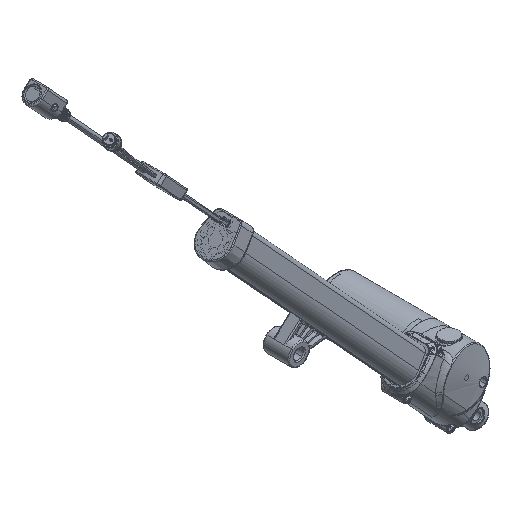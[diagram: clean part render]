
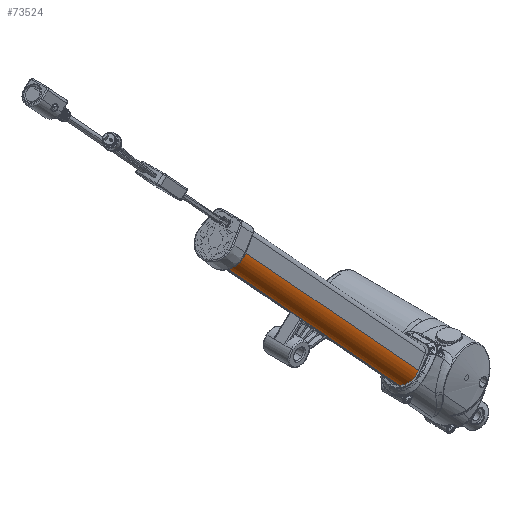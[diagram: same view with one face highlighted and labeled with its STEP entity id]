
A CAD part, isometric view. The second image highlights one B-rep face of the part: STEP entity #73524.
In plain terms, the highlighted cylindrical face has radius 15.15 mm (diameter 30.3 mm), a partial arc.
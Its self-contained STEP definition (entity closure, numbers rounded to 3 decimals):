
#64828=CARTESIAN_POINT('',(-232.704,-71.8,226.465));
#64829=DIRECTION('',(0.676,0.,-0.737));
#64830=DIRECTION('',(0.153,-0.978,0.141));
#64831=AXIS2_PLACEMENT_3D('',#64828,#64829,#64830);
#64833=CARTESIAN_POINT('',(-232.704,-71.8,226.465));
#64834=DIRECTION('',(0.676,0.,-0.737));
#64835=DIRECTION('',(0.,-1.,0.));
#64836=AXIS2_PLACEMENT_3D('',#64833,#64834,#64835);
#64967=DIRECTION('',(0.676,0.,-0.737));
#64968=VECTOR('',#64967,300.);
#64969=CARTESIAN_POINT('',(-242.607,-78.779,
217.37));
#64970=LINE('',#64969,#64968);
#65132=CARTESIAN_POINT('',(-29.786,-71.8,5.503));
#65133=DIRECTION('',(-0.676,0.,0.737));
#65134=DIRECTION('',(-0.654,-0.461,-0.6));
#65135=AXIS2_PLACEMENT_3D('',#65132,#65133,#65134);
#65137=CARTESIAN_POINT('',(-29.786,-71.8,5.503));
#65138=DIRECTION('',(-0.676,0.,0.737));
#65139=DIRECTION('',(0.,-1.,0.));
#65140=AXIS2_PLACEMENT_3D('',#65137,#65138,#65139);
#67139=CARTESIAN_POINT('',(-36.279,-71.8,12.574));
#67140=DIRECTION('',(0.676,0.,-0.737));
#67141=DIRECTION('',(0.153,-0.978,0.141));
#67142=AXIS2_PLACEMENT_3D('',#67139,#67140,#67141);
#67144=CARTESIAN_POINT('',(-36.279,-71.8,12.574));
#67145=DIRECTION('',(0.676,0.,-0.737));
#67146=DIRECTION('',(0.,-1.,0.));
#67147=AXIS2_PLACEMENT_3D('',#67144,#67145,#67146);
#67161=DIRECTION('',(0.676,0.,-0.737));
#67162=VECTOR('',#67161,284.4);
#67163=CARTESIAN_POINT('',(-230.384,-86.619,
228.596));
#67164=LINE('',#67163,#67162);
#67165=DIRECTION('',(0.676,0.,-0.737));
#67166=VECTOR('',#67165,6.);
#67167=CARTESIAN_POINT('',(-45.879,-84.95,
11.904));
#67168=LINE('',#67167,#67166);
#67169=DIRECTION('',(0.676,0.,-0.737));
#67170=VECTOR('',#67169,9.6);
#67171=CARTESIAN_POINT('',(-33.959,-86.619,
14.704));
#67172=LINE('',#67171,#67170);
#67173=CARTESIAN_POINT('',(-40.338,-71.8,16.993));
#67174=DIRECTION('',(-0.676,0.,0.737));
#67175=DIRECTION('',(-0.366,-0.868,-0.336));
#67176=AXIS2_PLACEMENT_3D('',#67173,#67174,#67175);
#67178=CARTESIAN_POINT('',(-40.338,-71.8,16.993));
#67179=DIRECTION('',(-0.676,0.,0.737));
#67180=DIRECTION('',(0.,-1.,0.));
#67181=AXIS2_PLACEMENT_3D('',#67178,#67179,#67180);
#68156=CARTESIAN_POINT('',(-230.384,-86.619,
228.596));
#68157=VERTEX_POINT('',#68156);
#68158=CARTESIAN_POINT('',(-232.704,-86.95,226.465));
#68159=VERTEX_POINT('',#68158);
#68160=CARTESIAN_POINT('',(-242.608,-78.777,
217.369));
#68161=VERTEX_POINT('',#68160);
#68230=CARTESIAN_POINT('',(-39.69,-78.78,
-3.592));
#68231=VERTEX_POINT('',#68230);
#68297=CARTESIAN_POINT('',(-29.786,-86.95,5.503));
#68298=VERTEX_POINT('',#68297);
#68299=CARTESIAN_POINT('',(-27.466,-86.619,
7.633));
#68300=VERTEX_POINT('',#68299);
#68733=CARTESIAN_POINT('',(-33.959,-86.619,
14.704));
#68735=VERTEX_POINT('',#68733);
#68738=CARTESIAN_POINT('',(-38.018,-86.619,
19.123));
#68739=VERTEX_POINT('',#68738);
#68740=CARTESIAN_POINT('',(-41.821,-84.95,
7.485));
#68741=VERTEX_POINT('',#68740);
#68742=CARTESIAN_POINT('',(-36.279,-86.95,12.574));
#68743=VERTEX_POINT('',#68742);
#68744=CARTESIAN_POINT('',(-45.879,-84.95,
11.904));
#68745=VERTEX_POINT('',#68744);
#68746=CARTESIAN_POINT('',(-40.338,-86.95,16.993));
#68747=VERTEX_POINT('',#68746);
#73503=CARTESIAN_POINT('',(-236.762,-71.8,230.884));
#73504=DIRECTION('',(0.676,0.,-0.737));
#73505=DIRECTION('',(0.,-1.,0.));
#73506=AXIS2_PLACEMENT_3D('',#73503,#73504,#73505);
#73507=CYLINDRICAL_SURFACE('',#73506,15.15);
#73508=ORIENTED_EDGE('',*,*,#70629,.F.);
#73509=ORIENTED_EDGE('',*,*,#70459,.F.);
#73510=ORIENTED_EDGE('',*,*,#70457,.F.);
#73511=ORIENTED_EDGE('',*,*,#73464,.T.);
#73513=ORIENTED_EDGE('',*,*,#73512,.F.);
#73515=ORIENTED_EDGE('',*,*,#73514,.F.);
#73516=ORIENTED_EDGE('',*,*,#73495,.T.);
#73517=ORIENTED_EDGE('',*,*,#73484,.F.);
#73518=ORIENTED_EDGE('',*,*,#73482,.F.);
#73519=ORIENTED_EDGE('',*,*,#73469,.T.);
#73520=ORIENTED_EDGE('',*,*,#70724,.F.);
#73521=ORIENTED_EDGE('',*,*,#70722,.F.);
#73522=EDGE_LOOP('',(#73508,#73509,#73510,#73511,#73513,#73515,#73516,#73517,
#73518,#73519,#73520,#73521));
#73523=FACE_OUTER_BOUND('',#73522,.F.);
#73524=ADVANCED_FACE('',(#73523),#73507,.T.);
#64832=CIRCLE('',#64831,15.15);
#64837=CIRCLE('',#64836,15.15);
#65136=CIRCLE('',#65135,15.15);
#65141=CIRCLE('',#65140,15.15);
#67143=CIRCLE('',#67142,15.15);
#67148=CIRCLE('',#67147,15.15);
#67177=CIRCLE('',#67176,15.15);
#67182=CIRCLE('',#67181,15.15);
#70457=EDGE_CURVE('',#68157,#68159,#64832,.T.);
#70459=EDGE_CURVE('',#68159,#68161,#64837,.T.);
#70629=EDGE_CURVE('',#68161,#68231,#64970,.T.);
#70722=EDGE_CURVE('',#68231,#68298,#65136,.T.);
#70724=EDGE_CURVE('',#68298,#68300,#65141,.T.);
#73464=EDGE_CURVE('',#68157,#68739,#67164,.T.);
#73469=EDGE_CURVE('',#68735,#68300,#67172,.T.);
#73482=EDGE_CURVE('',#68735,#68743,#67143,.T.);
#73484=EDGE_CURVE('',#68743,#68741,#67148,.T.);
#73495=EDGE_CURVE('',#68745,#68741,#67168,.T.);
#73512=EDGE_CURVE('',#68747,#68739,#67182,.T.);
#73514=EDGE_CURVE('',#68745,#68747,#67177,.T.);
